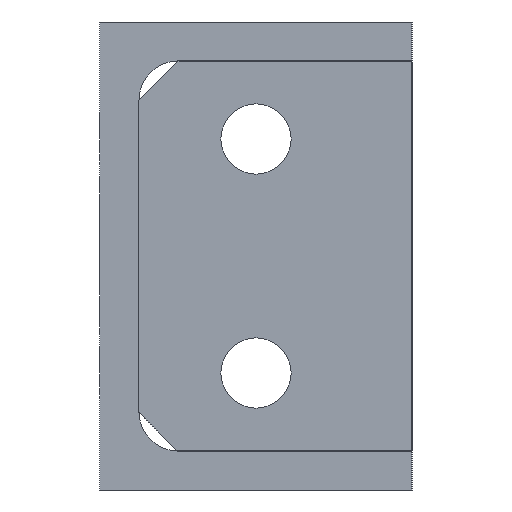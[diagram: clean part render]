
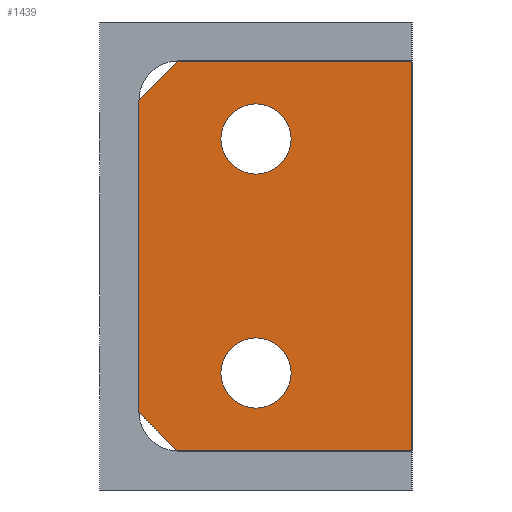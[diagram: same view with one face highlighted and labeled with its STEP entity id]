
A CAD part, left-side view. The second image highlights one B-rep face of the part: STEP entity #1439.
In plain terms, the highlighted planar face has unit normal (-1, 0, 0) as drawn and (0, 0, 1) by its records, which use the part's own axes.
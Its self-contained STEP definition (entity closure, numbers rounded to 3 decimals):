
#20 = ORIENTED_EDGE ( 'NONE', *, *, #722, .T. ) ;
#21 = CARTESIAN_POINT ( 'NONE',  ( 50., 0., 5. ) ) ;
#22 = VECTOR ( 'NONE', #1115, 1000. ) ;
#32 = CARTESIAN_POINT ( 'NONE',  ( 0., 0., 5. ) ) ;
#41 = LINE ( 'NONE', #21, #1051 ) ;
#58 = FACE_OUTER_BOUND ( 'NONE', #1331, .T. ) ;
#116 = AXIS2_PLACEMENT_3D ( 'NONE', #791, #1982, #455 ) ;
#118 = CIRCLE ( 'NONE', #979, 4.5 ) ;
#122 = VERTEX_POINT ( 'NONE', #1065 ) ;
#125 = ORIENTED_EDGE ( 'NONE', *, *, #1004, .T. ) ;
#179 = EDGE_CURVE ( 'NONE', #1271, #2112, #118, .T. ) ;
#190 = DIRECTION ( 'NONE',  ( 0., -1., 0. ) ) ;
#212 = EDGE_CURVE ( 'NONE', #385, #122, #1769, .T. ) ;
#229 = CARTESIAN_POINT ( 'NONE',  ( 0., 0., 5. ) ) ;
#364 = LINE ( 'NONE', #1043, #1351 ) ;
#385 = VERTEX_POINT ( 'NONE', #1993 ) ;
#436 = CARTESIAN_POINT ( 'NONE',  ( 0., 0., 5. ) ) ;
#455 = DIRECTION ( 'NONE',  ( 1., 0., 0. ) ) ;
#459 = EDGE_CURVE ( 'NONE', #1738, #773, #1479, .T. ) ;
#468 = CARTESIAN_POINT ( 'NONE',  ( 5., 35., 5. ) ) ;
#475 = ORIENTED_EDGE ( 'NONE', *, *, #2160, .T. ) ;
#533 = ORIENTED_EDGE ( 'NONE', *, *, #2070, .T. ) ;
#583 = CARTESIAN_POINT ( 'NONE',  ( 10., 20., 5. ) ) ;
#649 = CARTESIAN_POINT ( 'NONE',  ( 50., 30., 5. ) ) ;
#706 = FACE_BOUND ( 'NONE', #1094, .T. ) ;
#709 = DIRECTION ( 'NONE',  ( 0., 1., 0. ) ) ;
#722 = EDGE_CURVE ( 'NONE', #1687, #1738, #1454, .T. ) ;
#748 = PLANE ( 'NONE',  #1246 ) ;
#752 = DIRECTION ( 'NONE',  ( 1., 0., 0. ) ) ;
#755 = VERTEX_POINT ( 'NONE', #926 ) ;
#773 = VERTEX_POINT ( 'NONE', #1243 ) ;
#784 = VECTOR ( 'NONE', #939, 1000. ) ;
#791 = CARTESIAN_POINT ( 'NONE',  ( 10., 20., 5. ) ) ;
#849 = ORIENTED_EDGE ( 'NONE', *, *, #1123, .F. ) ;
#898 = DIRECTION ( 'NONE',  ( -1., 0., 0. ) ) ;
#917 = LINE ( 'NONE', #964, #784 ) ;
#926 = CARTESIAN_POINT ( 'NONE',  ( 50., 0., 5. ) ) ;
#939 = DIRECTION ( 'NONE',  ( -0.707, 0.707, 0. ) ) ;
#964 = CARTESIAN_POINT ( 'NONE',  ( 45., 35., 5. ) ) ;
#979 = AXIS2_PLACEMENT_3D ( 'NONE', #1366, #2065, #1378 ) ;
#1004 = EDGE_CURVE ( 'NONE', #755, #1949, #41, .T. ) ;
#1014 = VERTEX_POINT ( 'NONE', #32 ) ;
#1043 = CARTESIAN_POINT ( 'NONE',  ( 0., 0., 5. ) ) ;
#1051 = VECTOR ( 'NONE', #709, 1000. ) ;
#1065 = CARTESIAN_POINT ( 'NONE',  ( 5.5, 20., 5. ) ) ;
#1079 = FACE_BOUND ( 'NONE', #1832, .T. ) ;
#1094 = EDGE_LOOP ( 'NONE', ( #849, #1693 ) ) ;
#1101 = EDGE_CURVE ( 'NONE', #122, #385, #1807, .T. ) ;
#1107 = CARTESIAN_POINT ( 'NONE',  ( 0., 35., 5. ) ) ;
#1115 = DIRECTION ( 'NONE',  ( 1., 0., 0. ) ) ;
#1123 = EDGE_CURVE ( 'NONE', #2112, #1271, #1126, .T. ) ;
#1126 = CIRCLE ( 'NONE', #1882, 4.5 ) ;
#1139 = EDGE_CURVE ( 'NONE', #1014, #755, #1279, .T. ) ;
#1214 = ORIENTED_EDGE ( 'NONE', *, *, #212, .F. ) ;
#1225 = VECTOR ( 'NONE', #2037, 1000. ) ;
#1243 = CARTESIAN_POINT ( 'NONE',  ( 0., 30., 5. ) ) ;
#1246 = AXIS2_PLACEMENT_3D ( 'NONE', #229, #1426, #898 ) ;
#1271 = VERTEX_POINT ( 'NONE', #1690 ) ;
#1279 = LINE ( 'NONE', #436, #22 ) ;
#1282 = CARTESIAN_POINT ( 'NONE',  ( 44.5, 20., 5. ) ) ;
#1299 = CARTESIAN_POINT ( 'NONE',  ( 40., 20., 5. ) ) ;
#1300 = AXIS2_PLACEMENT_3D ( 'NONE', #583, #1430, #752 ) ;
#1318 = CARTESIAN_POINT ( 'NONE',  ( 0., 30., 5. ) ) ;
#1331 = EDGE_LOOP ( 'NONE', ( #125, #475, #20, #2144, #533, #1800 ) ) ;
#1351 = VECTOR ( 'NONE', #190, 1000. ) ;
#1366 = CARTESIAN_POINT ( 'NONE',  ( 40., 20., 5. ) ) ;
#1378 = DIRECTION ( 'NONE',  ( 1., 0., 0. ) ) ;
#1426 = DIRECTION ( 'NONE',  ( 0., 0., -1. ) ) ;
#1430 = DIRECTION ( 'NONE',  ( 0., 0., 1. ) ) ;
#1439 = ADVANCED_FACE ( 'NONE', ( #1079, #706, #58 ), #748, .F. ) ;
#1454 = LINE ( 'NONE', #1107, #1734 ) ;
#1456 = ORIENTED_EDGE ( 'NONE', *, *, #1101, .F. ) ;
#1479 = LINE ( 'NONE', #1318, #1225 ) ;
#1632 = DIRECTION ( 'NONE',  ( 1., 0., 0. ) ) ;
#1687 = VERTEX_POINT ( 'NONE', #1731 ) ;
#1690 = CARTESIAN_POINT ( 'NONE',  ( 35.5, 20., 5. ) ) ;
#1693 = ORIENTED_EDGE ( 'NONE', *, *, #179, .F. ) ;
#1731 = CARTESIAN_POINT ( 'NONE',  ( 45., 35., 5. ) ) ;
#1734 = VECTOR ( 'NONE', #1969, 1000. ) ;
#1738 = VERTEX_POINT ( 'NONE', #468 ) ;
#1769 = CIRCLE ( 'NONE', #116, 4.5 ) ;
#1800 = ORIENTED_EDGE ( 'NONE', *, *, #1139, .T. ) ;
#1807 = CIRCLE ( 'NONE', #1300, 4.5 ) ;
#1832 = EDGE_LOOP ( 'NONE', ( #1214, #1456 ) ) ;
#1882 = AXIS2_PLACEMENT_3D ( 'NONE', #1299, #2153, #1632 ) ;
#1949 = VERTEX_POINT ( 'NONE', #649 ) ;
#1969 = DIRECTION ( 'NONE',  ( -1., 0., 0. ) ) ;
#1982 = DIRECTION ( 'NONE',  ( 0., 0., 1. ) ) ;
#1993 = CARTESIAN_POINT ( 'NONE',  ( 14.5, 20., 5. ) ) ;
#2037 = DIRECTION ( 'NONE',  ( -0.707, -0.707, 0. ) ) ;
#2065 = DIRECTION ( 'NONE',  ( 0., 0., 1. ) ) ;
#2070 = EDGE_CURVE ( 'NONE', #773, #1014, #364, .T. ) ;
#2112 = VERTEX_POINT ( 'NONE', #1282 ) ;
#2144 = ORIENTED_EDGE ( 'NONE', *, *, #459, .T. ) ;
#2153 = DIRECTION ( 'NONE',  ( 0., 0., 1. ) ) ;
#2160 = EDGE_CURVE ( 'NONE', #1949, #1687, #917, .T. ) ;
